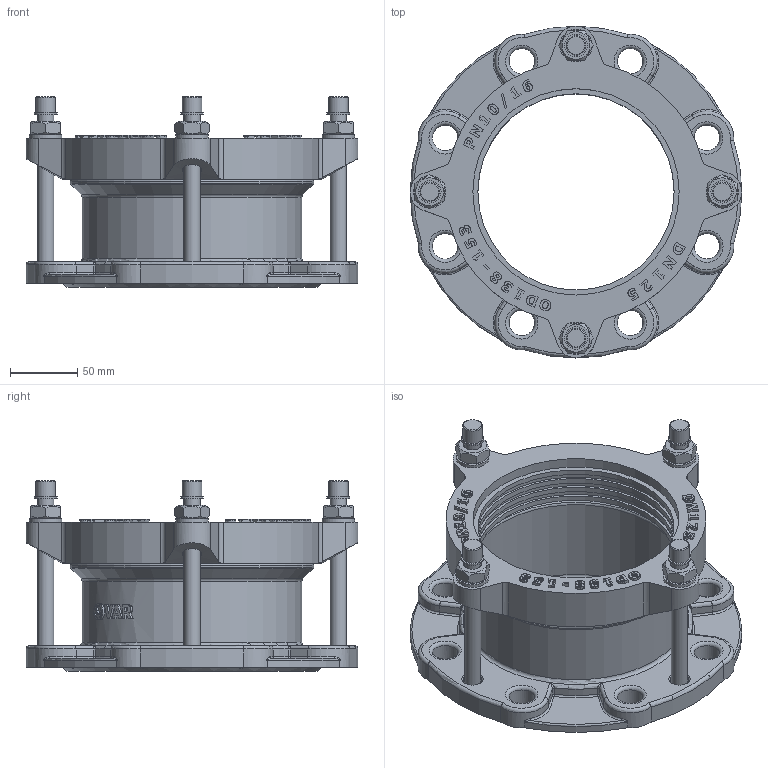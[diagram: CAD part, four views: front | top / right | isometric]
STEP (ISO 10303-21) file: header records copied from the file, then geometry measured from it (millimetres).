
FILE_DESCRIPTION(('STEP AP203'), '1');
FILE_NAME('Ôëàíöåâûé àäàïòåð', '', ('UNSPECIFIED'), ('UNSPECIFIED'), 'C3D Converter', 'C3D Toolkit', '');
FILE_SCHEMA(('CONFIG_CONTROL_DESIGN'));
Length unit declared in the file: millimetre
Assembly tree (19 placements, depth 2):
  (unnamed)
    (unnamed)
    (unnamed)  x4
    (unnamed)  x4
    (unnamed)  x4
    (unnamed)  x4
    (unnamed)
    (unnamed)
Bounding box: 246 x 246 x 141.2 mm (x, y, z)
Volume: 1074605.2 mm3; surface area: 316270 mm2
Topology: 19 solids, 19 shells, 1063 faces, 2722 edges, 1698 vertices
Faces by surface type: plane 354, extrusion 348, cylinder 202, torus 71, cone 32, bspline 32, sphere 24
Full cylindrical faces by diameter (mm): 12 x12, 12.253 x1, 13 x4, 14 x8, 14.4 x4, 16.8 x4, 19 x8, 24 x4, 145.5 x5, 149.25 x3, 153 x2, 158 x1, 163 x2, 180.5 x1, 183 x2
Entity records: 41698 total; most frequent: CARTESIAN_POINT 15301, ORIENTED_EDGE 4714, DIRECTION 3499, EDGE_CURVE 2357, VERTEX_POINT 1542, VECTOR 1395, B_SPLINE_CURVE_WITH_KNOTS 1162, EDGE_LOOP 1105
